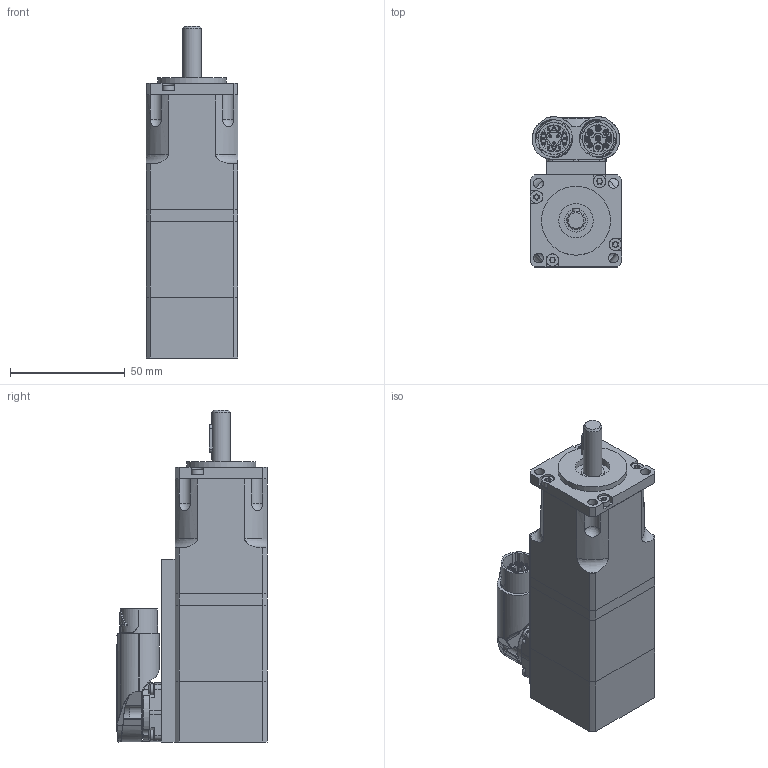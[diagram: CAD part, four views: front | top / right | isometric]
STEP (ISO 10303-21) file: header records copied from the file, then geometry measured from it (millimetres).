
FILE_DESCRIPTION(/* description */ (''),/* implementation_level */ '2;1');
FILE_NAME(/* name */ 'C:\Users\Public\Documents\Autodesk\Inventor LT 2014\Workspace\TG0\3D\tg0_definitivi\DSM5_0x_x1xD_brake\DSM5_04_x1xD.stp',/* time_stamp */ '2016-04-28T09:48:55+02:00',/* author */ ('motion'),/* organization */ (''),/* preprocessor_version */ 'ST-DEVELOPER v15.2',/* originating_system */ 'Autodesk Inventor LT ',/* authorisation */ '');
FILE_SCHEMA (('AUTOMOTIVE_DESIGN { 1 0 10303 214 3 1 1 }'));
Length unit declared in the file: millimetre
Products named in the file (1): DSM5_04_x1xD
Bounding box: 40 x 65.31 x 144.5 mm (x, y, z)
Volume: 135059.1 mm3; surface area: 65082.3 mm2
Topology: 17 solids, 17 shells, 1144 faces, 2983 edges, 1953 vertices
Faces by surface type: cylinder 454, plane 315, bspline 250, cone 57, torus 55, sphere 13
Full cylindrical faces by diameter (mm): 1 x24, 1.2 x3, 1.8 x5, 2.05 x4, 2.7 x4, 3.2 x8, 3.5 x2, 4 x2, 4.3 x4, 4.8 x6, 5 x2, 5.35 x6, 6 x2, 8 x2, 10 x1, 11.75 x1, 15 x1, 16 x1, 16.2 x2, 17.025 x1, 18.8 x1, 19.8 x1, 21.9 x1, 26 x2, 30 x1, 35 x6
Entity records: 40094 total; most frequent: CARTESIAN_POINT 12950, ORIENTED_EDGE 5674, DIRECTION 5600, EDGE_CURVE 2837, AXIS2_PLACEMENT_3D 2372, VERTEX_POINT 1939, EDGE_LOOP 1390, CIRCLE 1357
